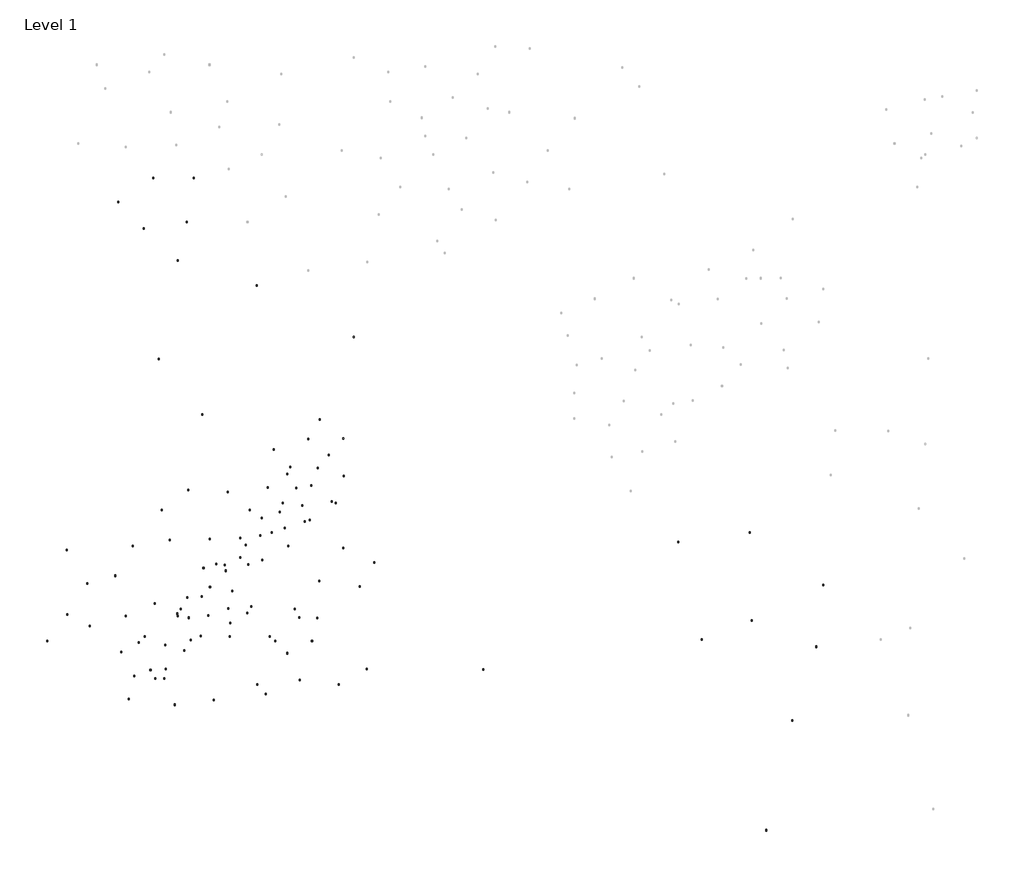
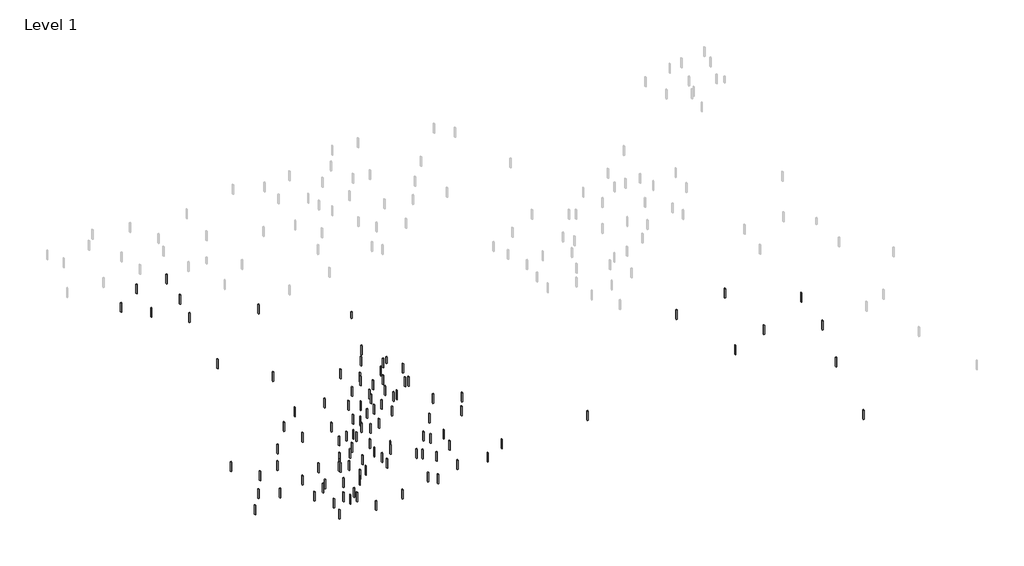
# One storey, part 1 of 3: 112 columns.
"""IFC4 building model written with IfcOpenShell, lengths in millimetres."""

from ifc_helpers import new_model, si_unit, origin, place, context, project, spatial, transform, mapped, element, save
from components import concrete_rectangular_column_12_x_18_4e544043, concrete_rectangular_column_12_x_18_d53c0298

model = new_model("IFC4")

# Units and contexts
model_context = context("Model", 3, world=origin())
ifc_project = project(units=[si_unit("LENGTHUNIT", "METRE", prefix="MILLI")], contexts=[model_context])

# Site, building, storey
site = spatial("IfcSite", under=ifc_project)
building = spatial("IfcBuilding", under=site)
storey = spatial("IfcBuildingStorey", under=building, Name="Level 1", Elevation=0.0)

# Columns
placement = place(None, origin())
concrete_rectangular_column_12_x_18_shape = concrete_rectangular_column_12_x_18_4e544043(model_context)
element("IfcColumn", 1, ObjectType="Concrete-Rectangular-Column : 12 x 18", at=placement, inside=storey, context=model_context, shape_type="MappedRepresentation", body=[
    mapped(concrete_rectangular_column_12_x_18_shape, transform((108236.3746611, 134663.9156504, 0.0), x_axis=(1.0, 0.0, 0.0), y_axis=(0.0, 1.0, 0.0), z_axis=(0.0, 0.0, 1.0))),
])
element("IfcColumn", 2, ObjectType="Concrete-Rectangular-Column : 12 x 18", at=placement, inside=storey, context=model_context, shape_type="MappedRepresentation", body=[
    mapped(concrete_rectangular_column_12_x_18_shape, transform((96676.8386469, 121200.4411543, 0.0), x_axis=(1.0, 0.0, 0.0), y_axis=(0.0, 1.0, 0.0), z_axis=(0.0, 0.0, 1.0))),
])
element("IfcColumn", 3, ObjectType="Concrete-Rectangular-Column : 12 x 18", at=placement, inside=storey, context=model_context, shape_type="MappedRepresentation", body=[
    mapped(concrete_rectangular_column_12_x_18_shape, transform((31704.274153, 102630.1315046, 0.0), x_axis=(1.0, 0.0, 0.0), y_axis=(0.0, 1.0, 0.0), z_axis=(0.0, 0.0, 1.0))),
])
element("IfcColumn", 4, ObjectType="Concrete-Rectangular-Column : 12 x 18", at=placement, inside=storey, context=model_context, shape_type="MappedRepresentation", body=[
    mapped(concrete_rectangular_column_12_x_18_shape, transform((41944.8959136, 82237.322074, 0.0), x_axis=(1.0, 0.0, 0.0), y_axis=(0.0, 1.0, 0.0), z_axis=(0.0, 0.0, 1.0))),
])
element("IfcColumn", 5, ObjectType="Concrete-Rectangular-Column : 12 x 18", at=placement, inside=storey, context=model_context, shape_type="MappedRepresentation", body=[
    mapped(concrete_rectangular_column_12_x_18_shape, transform((19746.1334487, 85452.5950785, 0.0), x_axis=(1.0, 0.0, 0.0), y_axis=(0.0, 1.0, 0.0), z_axis=(0.0, 0.0, 1.0))),
])
element("IfcColumn", 6, ObjectType="Concrete-Rectangular-Column : 12 x 18", at=placement, inside=storey, context=model_context, shape_type="MappedRepresentation", body=[
    mapped(concrete_rectangular_column_12_x_18_shape, transform((57889.0835194, 66452.5588717, 0.0), x_axis=(1.0, 0.0, 0.0), y_axis=(0.0, 1.0, 0.0), z_axis=(0.0, 0.0, 1.0))),
])
element("IfcColumn", 7, ObjectType="Concrete-Rectangular-Column : 12 x 18", at=placement, inside=storey, context=model_context, shape_type="MappedRepresentation", body=[
    mapped(concrete_rectangular_column_12_x_18_shape, transform((54700.2459982, 74344.9404728, 0.0), x_axis=(1.0, 0.0, 0.0), y_axis=(0.0, 1.0, 0.0), z_axis=(0.0, 0.0, 1.0))),
])
element("IfcColumn", 8, ObjectType="Concrete-Rectangular-Column : 12 x 18", at=placement, inside=storey, context=model_context, shape_type="MappedRepresentation", body=[
    mapped(concrete_rectangular_column_12_x_18_shape, transform((60679.3163504, 82701.5798152, 0.0), x_axis=(1.0, 0.0, 0.0), y_axis=(0.0, 1.0, 0.0), z_axis=(0.0, 0.0, 1.0))),
])
element("IfcColumn", 9, ObjectType="Concrete-Rectangular-Column : 12 x 18", at=placement, inside=storey, context=model_context, shape_type="MappedRepresentation", body=[
    mapped(concrete_rectangular_column_12_x_18_shape, transform((69448.6195336, 67845.3320954, 0.0), x_axis=(1.0, 0.0, 0.0), y_axis=(0.0, 1.0, 0.0), z_axis=(0.0, 0.0, 1.0))),
])
element("IfcColumn", 10, ObjectType="Concrete-Rectangular-Column : 12 x 18", at=placement, inside=storey, context=model_context, shape_type="MappedRepresentation", body=[
    mapped(concrete_rectangular_column_12_x_18_shape, transform((84994.2024493, 69702.3630604, 0.0), x_axis=(1.0, 0.0, 0.0), y_axis=(0.0, 1.0, 0.0), z_axis=(0.0, 0.0, 1.0))),
])
element("IfcColumn", 11, ObjectType="Concrete-Rectangular-Column : 12 x 18", at=placement, inside=storey, context=model_context, shape_type="MappedRepresentation", body=[
    mapped(concrete_rectangular_column_12_x_18_shape, transform((86190.0165198, 86879.8994864, 0.0), x_axis=(1.0, 0.0, 0.0), y_axis=(0.0, 1.0, 0.0), z_axis=(0.0, 0.0, 1.0))),
])
element("IfcColumn", 12, ObjectType="Concrete-Rectangular-Column : 12 x 18", at=placement, inside=storey, context=model_context, shape_type="MappedRepresentation", body=[
    mapped(concrete_rectangular_column_12_x_18_shape, transform((82469.1412254, 72440.8426473, 0.0), x_axis=(1.0, 0.0, 0.0), y_axis=(0.0, 1.0, 0.0), z_axis=(0.0, 0.0, 1.0))),
])
element("IfcColumn", 13, ObjectType="Concrete-Rectangular-Column : 12 x 18", at=placement, inside=storey, context=model_context, shape_type="MappedRepresentation", body=[
    mapped(concrete_rectangular_column_12_x_18_shape, transform((61599.625914, 98451.8118334, 0.0), x_axis=(1.0, 0.0, 0.0), y_axis=(0.0, 1.0, 0.0), z_axis=(0.0, 0.0, 1.0))),
])
element("IfcColumn", 14, ObjectType="Concrete-Rectangular-Column : 12 x 18", at=placement, inside=storey, context=model_context, shape_type="MappedRepresentation", body=[
    mapped(concrete_rectangular_column_12_x_18_shape, transform((61998.2306042, 92416.4611972, 0.0), x_axis=(1.0, 0.0, 0.0), y_axis=(0.0, 1.0, 0.0), z_axis=(0.0, 0.0, 1.0))),
])
element("IfcColumn", 15, ObjectType="Concrete-Rectangular-Column : 12 x 18", at=placement, inside=storey, context=model_context, shape_type="MappedRepresentation", body=[
    mapped(concrete_rectangular_column_12_x_18_shape, transform((72760.5572381, 108201.2243995, 0.0), x_axis=(1.0, 0.0, 0.0), y_axis=(0.0, 1.0, 0.0), z_axis=(0.0, 0.0, 1.0))),
])
element("IfcColumn", 16, ObjectType="Concrete-Rectangular-Column : 12 x 18", at=placement, inside=storey, context=model_context, shape_type="MappedRepresentation", body=[
    mapped(concrete_rectangular_column_12_x_18_shape, transform((63576.4818912, 223629.5995326, 0.0), x_axis=(1.0, 0.0, 0.0), y_axis=(0.0, 1.0, 0.0), z_axis=(0.0, 0.0, 1.0))),
])
element("IfcColumn", 17, ObjectType="Concrete-Rectangular-Column : 12 x 18", at=placement, inside=storey, context=model_context, shape_type="MappedRepresentation", body=[
    mapped(concrete_rectangular_column_12_x_18_shape, transform((51386.5691187, 223629.5995326, 0.0), x_axis=(1.0, 0.0, 0.0), y_axis=(0.0, 1.0, 0.0), z_axis=(0.0, 0.0, 1.0))),
])
element("IfcColumn", 18, ObjectType="Concrete-Rectangular-Column : 12 x 18", at=placement, inside=storey, context=model_context, shape_type="MappedRepresentation", body=[
    mapped(concrete_rectangular_column_12_x_18_shape, transform((40938.0724565, 216539.5428211, 0.0), x_axis=(1.0, 0.0, 0.0), y_axis=(0.0, 1.0, 0.0), z_axis=(0.0, 0.0, 1.0))),
])
element("IfcColumn", 19, ObjectType="Concrete-Rectangular-Column : 12 x 18", at=placement, inside=storey, context=model_context, shape_type="MappedRepresentation", body=[
    mapped(concrete_rectangular_column_12_x_18_shape, transform((230093.2144375, 91589.9851363, 0.0), x_axis=(1.0, 0.0, 0.0), y_axis=(0.0, 1.0, 0.0), z_axis=(0.0, 0.0, 1.0))),
])
element("IfcColumn", 20, ObjectType="Concrete-Rectangular-Column : 12 x 18", at=placement, inside=storey, context=model_context, shape_type="MappedRepresentation", body=[
    mapped(concrete_rectangular_column_12_x_18_shape, transform((251430.6150021, 102258.6854186, 0.0), x_axis=(1.0, 0.0, 0.0), y_axis=(0.0, 1.0, 0.0), z_axis=(0.0, 0.0, 1.0))),
])
element("IfcColumn", 21, ObjectType="Concrete-Rectangular-Column : 12 x 18", at=placement, inside=storey, context=model_context, shape_type="MappedRepresentation", body=[
    mapped(concrete_rectangular_column_12_x_18_shape, transform((249296.8749457, 83766.2715959, 0.0), x_axis=(1.0, 0.0, 0.0), y_axis=(0.0, 1.0, 0.0), z_axis=(0.0, 0.0, 1.0))),
])
element("IfcColumn", 22, ObjectType="Concrete-Rectangular-Column : 12 x 18", at=placement, inside=storey, context=model_context, shape_type="MappedRepresentation", body=[
    mapped(concrete_rectangular_column_12_x_18_shape, transform((149945.4490928, 76975.347726, 0.0), x_axis=(1.0, 0.0, 0.0), y_axis=(0.0, 1.0, 0.0), z_axis=(0.0, 0.0, 1.0))),
])
element("IfcColumn", 23, ObjectType="Concrete-Rectangular-Column : 12 x 18", at=placement, inside=storey, context=model_context, shape_type="MappedRepresentation", body=[
    mapped(concrete_rectangular_column_12_x_18_shape, transform((234360.6945504, 29000.2768134, 0.0), x_axis=(1.0, 0.0, 0.0), y_axis=(0.0, 1.0, 0.0), z_axis=(0.0, 0.0, 1.0))),
])
element("IfcColumn", 24, ObjectType="Concrete-Rectangular-Column : 12 x 18", at=placement, inside=storey, context=model_context, shape_type="MappedRepresentation", body=[
    mapped(concrete_rectangular_column_12_x_18_shape, transform((106784.0273243, 72440.8426473, 0.0), x_axis=(1.0, 0.0, 0.0), y_axis=(0.0, 1.0, 0.0), z_axis=(0.0, 0.0, 1.0))),
])
element("IfcColumn", 25, ObjectType="Concrete-Rectangular-Column : 12 x 18", at=placement, inside=storey, context=model_context, shape_type="MappedRepresentation", body=[
    mapped(concrete_rectangular_column_12_x_18_shape, transform((98811.9335214, 85440.0594021, 0.0), x_axis=(1.0, 0.0, 0.0), y_axis=(0.0, 1.0, 0.0), z_axis=(0.0, 0.0, 1.0))),
])
element("IfcColumn", 26, ObjectType="Concrete-Rectangular-Column : 12 x 18", at=placement, inside=storey, context=model_context, shape_type="MappedRepresentation", body=[
    mapped(concrete_rectangular_column_12_x_18_shape, transform((115154.7258174, 77083.4200597, 0.0), x_axis=(1.0, 0.0, 0.0), y_axis=(0.0, 1.0, 0.0), z_axis=(0.0, 0.0, 1.0))),
])
element("IfcColumn", 27, ObjectType="Concrete-Rectangular-Column : 12 x 18", at=placement, inside=storey, context=model_context, shape_type="MappedRepresentation", body=[
    mapped(concrete_rectangular_column_12_x_18_shape, transform((95224.4913101, 73833.615871, 0.0), x_axis=(1.0, 0.0, 0.0), y_axis=(0.0, 1.0, 0.0), z_axis=(0.0, 0.0, 1.0))),
])
element("IfcColumn", 28, ObjectType="Concrete-Rectangular-Column : 12 x 18", at=placement, inside=storey, context=model_context, shape_type="MappedRepresentation", body=[
    mapped(concrete_rectangular_column_12_x_18_shape, transform((100406.352282, 92403.9255208, 0.0), x_axis=(1.0, 0.0, 0.0), y_axis=(0.0, 1.0, 0.0), z_axis=(0.0, 0.0, 1.0))),
])
element("IfcColumn", 29, ObjectType="Concrete-Rectangular-Column : 12 x 18", at=placement, inside=storey, context=model_context, shape_type="MappedRepresentation", body=[
    mapped(concrete_rectangular_column_12_x_18_shape, transform((215157.0340423, 85900.0116524, 0.0), x_axis=(1.0, 0.0, 0.0), y_axis=(0.0, 1.0, 0.0), z_axis=(0.0, 0.0, 1.0))),
])
element("IfcColumn", 30, ObjectType="Concrete-Rectangular-Column : 12 x 18", at=placement, inside=storey, context=model_context, shape_type="MappedRepresentation", body=[
    mapped(concrete_rectangular_column_12_x_18_shape, transform((208044.5671874, 115061.1257573, 0.0), x_axis=(1.0, 0.0, 0.0), y_axis=(0.0, 1.0, 0.0), z_axis=(0.0, 0.0, 1.0))),
])
element("IfcColumn", 31, ObjectType="Concrete-Rectangular-Column : 12 x 18", at=placement, inside=storey, context=model_context, shape_type="MappedRepresentation", body=[
    mapped(concrete_rectangular_column_12_x_18_shape, transform((113019.6309429, 101701.6160221, 0.0), x_axis=(1.0, 0.0, 0.0), y_axis=(0.0, 1.0, 0.0), z_axis=(0.0, 0.0, 1.0))),
])
element("IfcColumn", 32, ObjectType="Concrete-Rectangular-Column : 12 x 18", at=placement, inside=storey, context=model_context, shape_type="MappedRepresentation", body=[
    mapped(concrete_rectangular_column_12_x_18_shape, transform((242184.4080908, 61717.6243458, 0.0), x_axis=(1.0, 0.0, 0.0), y_axis=(0.0, 1.0, 0.0), z_axis=(0.0, 0.0, 1.0))),
])
element("IfcColumn", 33, ObjectType="Concrete-Rectangular-Column : 12 x 18", at=placement, inside=storey, context=model_context, shape_type="MappedRepresentation", body=[
    mapped(concrete_rectangular_column_12_x_18_shape, transform((229381.967752, 117906.1124993, 0.0), x_axis=(1.0, 0.0, 0.0), y_axis=(0.0, 1.0, 0.0), z_axis=(0.0, 0.0, 1.0))),
])
element("IfcColumn", 34, ObjectType="Concrete-Rectangular-Column : 12 x 18", at=placement, inside=storey, context=model_context, shape_type="MappedRepresentation", body=[
    mapped(concrete_rectangular_column_12_x_18_shape, transform((66029.3219043, 153126.1161567, 0.0), x_axis=(1.0, 0.0, 0.0), y_axis=(0.0, 1.0, 0.0), z_axis=(0.0, 0.0, 1.0))),
])
element("IfcColumn", 35, ObjectType="Concrete-Rectangular-Column : 12 x 18", at=placement, inside=storey, context=model_context, shape_type="MappedRepresentation", body=[
    mapped(concrete_rectangular_column_12_x_18_shape, transform((79536.8369706, 93809.2344209, 0.0), x_axis=(1.0, 0.0, 0.0), y_axis=(0.0, 1.0, 0.0), z_axis=(0.0, 0.0, 1.0))),
])
element("IfcColumn", 36, ObjectType="Concrete-Rectangular-Column : 12 x 18", at=placement, inside=storey, context=model_context, shape_type="MappedRepresentation", body=[
    mapped(concrete_rectangular_column_12_x_18_shape, transform((74231.8758154, 86879.8994864, 0.0), x_axis=(1.0, 0.0, 0.0), y_axis=(0.0, 1.0, 0.0), z_axis=(0.0, 0.0, 1.0))),
])
element("IfcColumn", 37, ObjectType="Concrete-Rectangular-Column : 12 x 18", at=placement, inside=storey, context=model_context, shape_type="MappedRepresentation", body=[
    mapped(concrete_rectangular_column_12_x_18_shape, transform((43263.8101673, 92880.7189384, 0.0), x_axis=(1.0, 0.0, 0.0), y_axis=(0.0, 1.0, 0.0), z_axis=(0.0, 0.0, 1.0))),
])
element("IfcColumn", 38, ObjectType="Concrete-Rectangular-Column : 12 x 18", at=placement, inside=storey, context=model_context, shape_type="MappedRepresentation", body=[
    mapped(concrete_rectangular_column_12_x_18_shape, transform((58686.2928997, 92915.2501226, 0.0), x_axis=(1.0, 0.0, 0.0), y_axis=(0.0, 1.0, 0.0), z_axis=(0.0, 0.0, 1.0))),
])
element("IfcColumn", 39, ObjectType="Concrete-Rectangular-Column : 12 x 18", at=placement, inside=storey, context=model_context, shape_type="MappedRepresentation", body=[
    mapped(concrete_rectangular_column_12_x_18_shape, transform((47126.7568855, 85022.8685215, 0.0), x_axis=(1.0, 0.0, 0.0), y_axis=(0.0, 1.0, 0.0), z_axis=(0.0, 0.0, 1.0))),
])
element("IfcColumn", 40, ObjectType="Concrete-Rectangular-Column : 12 x 18", at=placement, inside=storey, context=model_context, shape_type="MappedRepresentation", body=[
    mapped(concrete_rectangular_column_12_x_18_shape, transform((25725.2038008, 93344.9766797, 0.0), x_axis=(1.0, 0.0, 0.0), y_axis=(0.0, 1.0, 0.0), z_axis=(0.0, 0.0, 1.0))),
])
element("IfcColumn", 41, ObjectType="Concrete-Rectangular-Column : 12 x 18", at=placement, inside=storey, context=model_context, shape_type="MappedRepresentation", body=[
    mapped(concrete_rectangular_column_12_x_18_shape, transform((40074.9726461, 104951.4202108, 0.0), x_axis=(1.0, 0.0, 0.0), y_axis=(0.0, 1.0, 0.0), z_axis=(0.0, 0.0, 1.0))),
])
element("IfcColumn", 42, ObjectType="Concrete-Rectangular-Column : 12 x 18", at=placement, inside=storey, context=model_context, shape_type="MappedRepresentation", body=[
    mapped(concrete_rectangular_column_12_x_18_shape, transform((45256.833618, 113772.3172944, 0.0), x_axis=(1.0, 0.0, 0.0), y_axis=(0.0, 1.0, 0.0), z_axis=(0.0, 0.0, 1.0))),
])
element("IfcColumn", 43, ObjectType="Concrete-Rectangular-Column : 12 x 18", at=placement, inside=storey, context=model_context, shape_type="MappedRepresentation", body=[
    mapped(concrete_rectangular_column_12_x_18_shape, transform((56417.7649421, 115629.3482594, 0.0), x_axis=(1.0, 0.0, 0.0), y_axis=(0.0, 1.0, 0.0), z_axis=(0.0, 0.0, 1.0))),
])
element("IfcColumn", 44, ObjectType="Concrete-Rectangular-Column : 12 x 18", at=placement, inside=storey, context=model_context, shape_type="MappedRepresentation", body=[
    mapped(concrete_rectangular_column_12_x_18_shape, transform((53127.9852291, 169636.0907297, 0.0), x_axis=(1.0, 0.0, 0.0), y_axis=(0.0, 1.0, 0.0), z_axis=(0.0, 0.0, 1.0))),
])
element("IfcColumn", 45, ObjectType="Concrete-Rectangular-Column : 12 x 18", at=placement, inside=storey, context=model_context, shape_type="MappedRepresentation", body=[
    mapped(concrete_rectangular_column_12_x_18_shape, transform((51941.6023645, 96601.7901574, 0.0), x_axis=(1.0, 0.0, 0.0), y_axis=(0.0, 1.0, 0.0), z_axis=(0.0, 0.0, 1.0))),
])
element("IfcColumn", 46, ObjectType="Concrete-Rectangular-Column : 12 x 18", at=placement, inside=storey, context=model_context, shape_type="MappedRepresentation", body=[
    mapped(concrete_rectangular_column_12_x_18_shape, transform((32507.42189, 89944.3991654, 0.0), x_axis=(1.0, 0.0, 0.0), y_axis=(0.0, 1.0, 0.0), z_axis=(0.0, 0.0, 1.0))),
])
element("IfcColumn", 47, ObjectType="Concrete-Rectangular-Column : 12 x 18", at=placement, inside=storey, context=model_context, shape_type="MappedRepresentation", body=[
    mapped(concrete_rectangular_column_12_x_18_shape, transform((73662.1570126, 129888.7451172, 0.0), x_axis=(1.0, 0.0, 0.0), y_axis=(0.0, 1.0, 0.0), z_axis=(0.0, 0.0, 1.0))),
])
element("IfcColumn", 48, ObjectType="Concrete-Rectangular-Column : 12 x 18", at=placement, inside=storey, context=model_context, shape_type="MappedRepresentation", body=[
    mapped(concrete_rectangular_column_12_x_18_shape, transform((25648.2993696, 112579.5285381, 0.0), x_axis=(1.0, 0.0, 0.0), y_axis=(0.0, 1.0, 0.0), z_axis=(0.0, 0.0, 1.0))),
])
element("IfcColumn", 49, ObjectType="Concrete-Rectangular-Column : 12 x 18", at=placement, inside=storey, context=model_context, shape_type="MappedRepresentation", body=[
    mapped(concrete_rectangular_column_12_x_18_shape, transform((44071.5228678, 68237.1238954, 0.0), x_axis=(1.0, 0.0, 0.0), y_axis=(0.0, 1.0, 0.0), z_axis=(0.0, 0.0, 1.0))),
])
element("IfcColumn", 50, ObjectType="Concrete-Rectangular-Column : 12 x 18", at=placement, inside=storey, context=model_context, shape_type="MappedRepresentation", body=[
    mapped(concrete_rectangular_column_12_x_18_shape, transform((61386.9398689, 210478.9144885, 0.0), x_axis=(1.0, 0.0, 0.0), y_axis=(0.0, 1.0, 0.0), z_axis=(0.0, 0.0, 1.0))),
])
element("IfcColumn", 51, ObjectType="Concrete-Rectangular-Column : 12 x 18", at=placement, inside=storey, context=model_context, shape_type="MappedRepresentation", body=[
    mapped(concrete_rectangular_column_12_x_18_shape, transform((58693.8048854, 199092.2719081, 0.0), x_axis=(1.0, 0.0, 0.0), y_axis=(0.0, 1.0, 0.0), z_axis=(0.0, 0.0, 1.0))),
])
element("IfcColumn", 52, ObjectType="Concrete-Rectangular-Column : 12 x 18", at=placement, inside=storey, context=model_context, shape_type="MappedRepresentation", body=[
    mapped(concrete_rectangular_column_12_x_18_shape, transform((48594.5486974, 208581.1407251, 0.0), x_axis=(1.0, 0.0, 0.0), y_axis=(0.0, 1.0, 0.0), z_axis=(0.0, 0.0, 1.0))),
])
element("IfcColumn", 53, ObjectType="Concrete-Rectangular-Column : 12 x 18", at=placement, inside=storey, context=model_context, shape_type="MappedRepresentation", body=[
    mapped(concrete_rectangular_column_12_x_18_shape, transform((117344.9170358, 108953.0367563, 0.0), x_axis=(1.0, 0.0, 0.0), y_axis=(0.0, 1.0, 0.0), z_axis=(0.0, 0.0, 1.0))),
])
element("IfcColumn", 54, ObjectType="Concrete-Rectangular-Column : 12 x 18", at=placement, inside=storey, context=model_context, shape_type="MappedRepresentation", body=[
    mapped(concrete_rectangular_column_12_x_18_shape, transform((108098.1646724, 113260.9402729, 0.0), x_axis=(1.0, 0.0, 0.0), y_axis=(0.0, 1.0, 0.0), z_axis=(0.0, 0.0, 1.0))),
])
element("IfcColumn", 55, ObjectType="Concrete-Rectangular-Column : 12 x 18", at=placement, inside=storey, context=model_context, shape_type="MappedRepresentation", body=[
    mapped(concrete_rectangular_column_12_x_18_shape, transform((93644.789446, 94969.2809668, 0.0), x_axis=(1.0, 0.0, 0.0), y_axis=(0.0, 1.0, 0.0), z_axis=(0.0, 0.0, 1.0))),
])
element("IfcColumn", 56, ObjectType="Concrete-Rectangular-Column : 12 x 18", at=placement, inside=storey, context=model_context, shape_type="MappedRepresentation", body=[
    mapped(concrete_rectangular_column_12_x_18_shape, transform((48918.9495469, 86875.0312336, 0.0), x_axis=(1.0, 0.0, 0.0), y_axis=(0.0, 1.0, 0.0), z_axis=(0.0, 0.0, 1.0))),
])
element("IfcColumn", 57, ObjectType="Concrete-Rectangular-Column : 12 x 18", at=placement, inside=storey, context=model_context, shape_type="MappedRepresentation", body=[
    mapped(concrete_rectangular_column_12_x_18_shape, transform((54004.6633467, 124569.187004, 0.0), x_axis=(1.0, 0.0, 0.0), y_axis=(0.0, 1.0, 0.0), z_axis=(0.0, 0.0, 1.0))),
])
element("IfcColumn", 58, ObjectType="Concrete-Rectangular-Column : 12 x 18", at=placement, inside=storey, context=model_context, shape_type="MappedRepresentation", body=[
    mapped(concrete_rectangular_column_12_x_18_shape, transform((61864.4028556, 130492.5543394, 0.0), x_axis=(1.0, 0.0, 0.0), y_axis=(0.0, 1.0, 0.0), z_axis=(0.0, 0.0, 1.0))),
])
element("IfcColumn", 59, ObjectType="Concrete-Rectangular-Column : 12 x 18", at=placement, inside=storey, context=model_context, shape_type="MappedRepresentation", body=[
    mapped(concrete_rectangular_column_12_x_18_shape, transform((68337.12951, 115953.3799708, 0.0), x_axis=(1.0, 0.0, 0.0), y_axis=(0.0, 1.0, 0.0), z_axis=(0.0, 0.0, 1.0))),
])
element("IfcColumn", 60, ObjectType="Concrete-Rectangular-Column : 12 x 18", at=placement, inside=storey, context=model_context, shape_type="MappedRepresentation", body=[
    mapped(concrete_rectangular_column_12_x_18_shape, transform((82373.7402735, 191499.6992398, 0.0), x_axis=(1.0, 0.0, 0.0), y_axis=(0.0, 1.0, 0.0), z_axis=(0.0, 0.0, 1.0))),
])
element("IfcColumn", 61, ObjectType="Concrete-Rectangular-Column : 12 x 18", at=placement, inside=storey, context=model_context, shape_type="MappedRepresentation", body=[
    mapped(concrete_rectangular_column_12_x_18_shape, transform((92388.3073717, 137432.4060734, 0.0), x_axis=(1.0, 0.0, 0.0), y_axis=(0.0, 1.0, 0.0), z_axis=(0.0, 0.0, 1.0))),
])
element("IfcColumn", 62, ObjectType="Concrete-Rectangular-Column : 12 x 18", at=placement, inside=storey, context=model_context, shape_type="MappedRepresentation", body=[
    mapped(concrete_rectangular_column_12_x_18_shape, transform((83400.4640745, 116932.1702137, 0.0), x_axis=(1.0, 0.0, 0.0), y_axis=(0.0, 1.0, 0.0), z_axis=(0.0, 0.0, 1.0))),
])
element("IfcColumn", 63, ObjectType="Concrete-Rectangular-Column : 12 x 18", at=placement, inside=storey, context=model_context, shape_type="MappedRepresentation", body=[
    mapped(concrete_rectangular_column_12_x_18_shape, transform((101001.6571982, 103410.7380509, 0.0), x_axis=(1.0, 0.0, 0.0), y_axis=(0.0, 1.0, 0.0), z_axis=(0.0, 0.0, 1.0))),
])
element("IfcColumn", 64, ObjectType="Concrete-Rectangular-Column : 12 x 18", at=placement, inside=storey, context=model_context, shape_type="MappedRepresentation", body=[
    mapped(concrete_rectangular_column_12_x_18_shape, transform((95040.0189474, 92483.5400474, 0.0), x_axis=(1.0, 0.0, 0.0), y_axis=(0.0, 1.0, 0.0), z_axis=(0.0, 0.0, 1.0))),
])
element("IfcColumn", 65, ObjectType="Concrete-Rectangular-Column : 12 x 18", at=placement, inside=storey, context=model_context, shape_type="MappedRepresentation", body=[
    mapped(concrete_rectangular_column_12_x_18_shape, transform((91416.697091, 81818.1476752, 0.0), x_axis=(1.0, 0.0, 0.0), y_axis=(0.0, 1.0, 0.0), z_axis=(0.0, 0.0, 1.0))),
])
element("IfcColumn", 66, ObjectType="Concrete-Rectangular-Column : 12 x 18", at=placement, inside=storey, context=model_context, shape_type="MappedRepresentation", body=[
    mapped(concrete_rectangular_column_12_x_18_shape, transform((87894.3857231, 85527.5535775, 0.0), x_axis=(1.0, 0.0, 0.0), y_axis=(0.0, 1.0, 0.0), z_axis=(0.0, 0.0, 1.0))),
])
element("IfcColumn", 67, ObjectType="Concrete-Rectangular-Column : 12 x 18", at=placement, inside=storey, context=model_context, shape_type="MappedRepresentation", body=[
    mapped(concrete_rectangular_column_12_x_18_shape, transform((67833.8193272, 93069.0402379, 0.0), x_axis=(1.0, 0.0, 0.0), y_axis=(0.0, 1.0, 0.0), z_axis=(0.0, 0.0, 1.0))),
])
element("IfcColumn", 68, ObjectType="Concrete-Rectangular-Column : 12 x 18", at=placement, inside=storey, context=model_context, shape_type="MappedRepresentation", body=[
    mapped(concrete_rectangular_column_12_x_18_shape, transform((68375.1007284, 101583.2829962, 0.0), x_axis=(1.0, 0.0, 0.0), y_axis=(0.0, 1.0, 0.0), z_axis=(0.0, 0.0, 1.0))),
])
element("IfcColumn", 69, ObjectType="Concrete-Rectangular-Column : 12 x 18", at=placement, inside=storey, context=model_context, shape_type="MappedRepresentation", body=[
    mapped(concrete_rectangular_column_12_x_18_shape, transform((77365.8001909, 110391.8827056, 0.0), x_axis=(1.0, 0.0, 0.0), y_axis=(0.0, 1.0, 0.0), z_axis=(0.0, 0.0, 1.0))),
])
element("IfcColumn", 70, ObjectType="Concrete-Rectangular-Column : 12 x 18", at=placement, inside=storey, context=model_context, shape_type="MappedRepresentation", body=[
    mapped(concrete_rectangular_column_12_x_18_shape, transform((79028.8010206, 114112.792373, 0.0), x_axis=(1.0, 0.0, 0.0), y_axis=(0.0, 1.0, 0.0), z_axis=(0.0, 0.0, 1.0))),
])
element("IfcColumn", 71, ObjectType="Concrete-Rectangular-Column : 12 x 18", at=placement, inside=storey, context=model_context, shape_type="MappedRepresentation", body=[
    mapped(concrete_rectangular_column_12_x_18_shape, transform((86850.9450125, 117915.8379075, 0.0), x_axis=(1.0, 0.0, 0.0), y_axis=(0.0, 1.0, 0.0), z_axis=(0.0, 0.0, 1.0))),
])
element("IfcColumn", 72, ObjectType="Concrete-Rectangular-Column : 12 x 18", at=placement, inside=storey, context=model_context, shape_type="MappedRepresentation", body=[
    mapped(concrete_rectangular_column_12_x_18_shape, transform((90098.5207464, 126713.5271722, 0.0), x_axis=(1.0, 0.0, 0.0), y_axis=(0.0, 1.0, 0.0), z_axis=(0.0, 0.0, 1.0))),
])
element("IfcColumn", 73, ObjectType="Concrete-Rectangular-Column : 12 x 18", at=placement, inside=storey, context=model_context, shape_type="MappedRepresentation", body=[
    mapped(concrete_rectangular_column_12_x_18_shape, transform((95939.3519611, 125866.4827085, 0.0), x_axis=(1.0, 0.0, 0.0), y_axis=(0.0, 1.0, 0.0), z_axis=(0.0, 0.0, 1.0))),
])
element("IfcColumn", 74, ObjectType="Concrete-Rectangular-Column : 12 x 18", at=placement, inside=storey, context=model_context, shape_type="MappedRepresentation", body=[
    mapped(concrete_rectangular_column_12_x_18_shape, transform((105904.1793758, 126718.6336375, 0.0), x_axis=(1.0, 0.0, 0.0), y_axis=(0.0, 1.0, 0.0), z_axis=(0.0, 0.0, 1.0))),
])
element("IfcColumn", 75, ObjectType="Concrete-Rectangular-Column : 12 x 18", at=placement, inside=storey, context=model_context, shape_type="MappedRepresentation", body=[
    mapped(concrete_rectangular_column_12_x_18_shape, transform((45772.386746, 75057.8611768, 0.0), x_axis=(1.0, 0.0, 0.0), y_axis=(0.0, 1.0, 0.0), z_axis=(0.0, 0.0, 1.0))),
])
element("IfcColumn", 76, ObjectType="Concrete-Rectangular-Column : 12 x 18", at=placement, inside=storey, context=model_context, shape_type="MappedRepresentation", body=[
    mapped(concrete_rectangular_column_12_x_18_shape, transform((50616.6977086, 76799.3217837, 0.0), x_axis=(1.0, 0.0, 0.0), y_axis=(0.0, 1.0, 0.0), z_axis=(0.0, 0.0, 1.0))),
])
element("IfcColumn", 77, ObjectType="Concrete-Rectangular-Column : 12 x 18", at=placement, inside=storey, context=model_context, shape_type="MappedRepresentation", body=[
    mapped(concrete_rectangular_column_12_x_18_shape, transform((55023.0090328, 84262.3912236, 0.0), x_axis=(1.0, 0.0, 0.0), y_axis=(0.0, 1.0, 0.0), z_axis=(0.0, 0.0, 1.0))),
])
element("IfcColumn", 78, ObjectType="Concrete-Rectangular-Column : 12 x 18", at=placement, inside=storey, context=model_context, shape_type="MappedRepresentation", body=[
    mapped(concrete_rectangular_column_12_x_18_shape, transform((51962.3825804, 74260.4752903, 0.0), x_axis=(1.0, 0.0, 0.0), y_axis=(0.0, 1.0, 0.0), z_axis=(0.0, 0.0, 1.0))),
])
element("IfcColumn", 79, ObjectType="Concrete-Rectangular-Column : 12 x 18", at=placement, inside=storey, context=model_context, shape_type="MappedRepresentation", body=[
    mapped(concrete_rectangular_column_12_x_18_shape, transform((55183.5180517, 77189.8574183, 0.0), x_axis=(1.0, 0.0, 0.0), y_axis=(0.0, 1.0, 0.0), z_axis=(0.0, 0.0, 1.0))),
])
element("IfcColumn", 80, ObjectType="Concrete-Rectangular-Column : 12 x 18", at=placement, inside=storey, context=model_context, shape_type="MappedRepresentation", body=[
    mapped(concrete_rectangular_column_12_x_18_shape, transform((62574.704551, 85794.89856, 0.0), x_axis=(1.0, 0.0, 0.0), y_axis=(0.0, 1.0, 0.0), z_axis=(0.0, 0.0, 1.0))),
])
element("IfcColumn", 81, ObjectType="Concrete-Rectangular-Column : 12 x 18", at=placement, inside=storey, context=model_context, shape_type="MappedRepresentation", body=[
    mapped(concrete_rectangular_column_12_x_18_shape, transform((73762.4491424, 95185.8299954, 0.0), x_axis=(1.0, 0.0, 0.0), y_axis=(0.0, 1.0, 0.0), z_axis=(0.0, 0.0, 1.0))),
])
element("IfcColumn", 82, ObjectType="Concrete-Rectangular-Column : 12 x 18", at=placement, inside=storey, context=model_context, shape_type="MappedRepresentation", body=[
    mapped(concrete_rectangular_column_12_x_18_shape, transform((65555.9944881, 86936.7716902, 0.0), x_axis=(1.0, 0.0, 0.0), y_axis=(0.0, 1.0, 0.0), z_axis=(0.0, 0.0, 1.0))),
])
element("IfcColumn", 83, ObjectType="Concrete-Rectangular-Column : 12 x 18", at=placement, inside=storey, context=model_context, shape_type="MappedRepresentation", body=[
    mapped(concrete_rectangular_column_12_x_18_shape, transform((74471.3343423, 90805.0533127, 0.0), x_axis=(1.0, 0.0, 0.0), y_axis=(0.0, 1.0, 0.0), z_axis=(0.0, 0.0, 1.0))),
])
element("IfcColumn", 84, ObjectType="Concrete-Rectangular-Column : 12 x 18", at=placement, inside=storey, context=model_context, shape_type="MappedRepresentation", body=[
    mapped(concrete_rectangular_column_12_x_18_shape, transform((80627.5597761, 95772.9059337, 0.0), x_axis=(1.0, 0.0, 0.0), y_axis=(0.0, 1.0, 0.0), z_axis=(0.0, 0.0, 1.0))),
])
element("IfcColumn", 85, ObjectType="Concrete-Rectangular-Column : 12 x 18", at=placement, inside=storey, context=model_context, shape_type="MappedRepresentation", body=[
    mapped(concrete_rectangular_column_12_x_18_shape, transform((79817.0793569, 108366.53233, 0.0), x_axis=(1.0, 0.0, 0.0), y_axis=(0.0, 1.0, 0.0), z_axis=(0.0, 0.0, 1.0))),
])
element("IfcColumn", 86, ObjectType="Concrete-Rectangular-Column : 12 x 18", at=placement, inside=storey, context=model_context, shape_type="MappedRepresentation", body=[
    mapped(concrete_rectangular_column_12_x_18_shape, transform((74997.5074802, 100365.3039312, 0.0), x_axis=(1.0, 0.0, 0.0), y_axis=(0.0, 1.0, 0.0), z_axis=(0.0, 0.0, 1.0))),
])
element("IfcColumn", 87, ObjectType="Concrete-Rectangular-Column : 12 x 18", at=placement, inside=storey, context=model_context, shape_type="MappedRepresentation", body=[
    mapped(concrete_rectangular_column_12_x_18_shape, transform((66431.3179265, 107221.8372376, 0.0), x_axis=(1.0, 0.0, 0.0), y_axis=(0.0, 1.0, 0.0), z_axis=(0.0, 0.0, 1.0))),
])
element("IfcColumn", 88, ObjectType="Concrete-Rectangular-Column : 12 x 18", at=placement, inside=storey, context=model_context, shape_type="MappedRepresentation", body=[
    mapped(concrete_rectangular_column_12_x_18_shape, transform((58575.1885121, 93613.0685334, 0.0), x_axis=(1.0, 0.0, 0.0), y_axis=(0.0, 1.0, 0.0), z_axis=(0.0, 0.0, 1.0))),
])
element("IfcColumn", 89, ObjectType="Concrete-Rectangular-Column : 12 x 18", at=placement, inside=storey, context=model_context, shape_type="MappedRepresentation", body=[
    mapped(concrete_rectangular_column_12_x_18_shape, transform((59623.6696699, 95038.9896331, 0.0), x_axis=(1.0, 0.0, 0.0), y_axis=(0.0, 1.0, 0.0), z_axis=(0.0, 0.0, 1.0))),
])
element("IfcColumn", 90, ObjectType="Concrete-Rectangular-Column : 12 x 18", at=placement, inside=storey, context=model_context, shape_type="MappedRepresentation", body=[
    mapped(concrete_rectangular_column_12_x_18_shape, transform((65891.7945124, 98694.785718, 0.0), x_axis=(1.0, 0.0, 0.0), y_axis=(0.0, 1.0, 0.0), z_axis=(0.0, 0.0, 1.0))),
])
element("IfcColumn", 91, ObjectType="Concrete-Rectangular-Column : 12 x 18", at=placement, inside=storey, context=model_context, shape_type="MappedRepresentation", body=[
    mapped(concrete_rectangular_column_12_x_18_shape, transform((70192.3456966, 108437.2963704, 0.0), x_axis=(1.0, 0.0, 0.0), y_axis=(0.0, 1.0, 0.0), z_axis=(0.0, 0.0, 1.0))),
])
element("IfcColumn", 92, ObjectType="Concrete-Rectangular-Column : 12 x 18", at=placement, inside=storey, context=model_context, shape_type="MappedRepresentation", body=[
    mapped(concrete_rectangular_column_12_x_18_shape, transform((80225.5856532, 124522.7062435, 0.0), x_axis=(1.0, 0.0, 0.0), y_axis=(0.0, 1.0, 0.0), z_axis=(0.0, 0.0, 1.0))),
])
element("IfcColumn", 93, ObjectType="Concrete-Rectangular-Column : 12 x 18", at=placement, inside=storey, context=model_context, shape_type="MappedRepresentation", body=[
    mapped(concrete_rectangular_column_12_x_18_shape, transform((85541.9302385, 131265.2178715, 0.0), x_axis=(1.0, 0.0, 0.0), y_axis=(0.0, 1.0, 0.0), z_axis=(0.0, 0.0, 1.0))),
])
element("IfcColumn", 94, ObjectType="Concrete-Rectangular-Column : 12 x 18", at=placement, inside=storey, context=model_context, shape_type="MappedRepresentation", body=[
    mapped(concrete_rectangular_column_12_x_18_shape, transform((101159.2974857, 151526.9175793, 0.0), x_axis=(1.0, 0.0, 0.0), y_axis=(0.0, 1.0, 0.0), z_axis=(0.0, 0.0, 1.0))),
])
element("IfcColumn", 95, ObjectType="Concrete-Rectangular-Column : 12 x 18", at=placement, inside=storey, context=model_context, shape_type="MappedRepresentation", body=[
    mapped(concrete_rectangular_column_12_x_18_shape, transform((100584.7371076, 137049.3276506, 0.0), x_axis=(1.0, 0.0, 0.0), y_axis=(0.0, 1.0, 0.0), z_axis=(0.0, 0.0, 1.0))),
])
element("IfcColumn", 96, ObjectType="Concrete-Rectangular-Column : 12 x 18", at=placement, inside=storey, context=model_context, shape_type="MappedRepresentation", body=[
    mapped(concrete_rectangular_column_12_x_18_shape, transform((97677.3719431, 145812.0859618, 0.0), x_axis=(1.0, 0.0, 0.0), y_axis=(0.0, 1.0, 0.0), z_axis=(0.0, 0.0, 1.0))),
])
element("IfcColumn", 97, ObjectType="Concrete-Rectangular-Column : 12 x 18", at=placement, inside=storey, context=model_context, shape_type="MappedRepresentation", body=[
    mapped(concrete_rectangular_column_12_x_18_shape, transform((94041.5237496, 131093.1631242, 0.0), x_axis=(1.0, 0.0, 0.0), y_axis=(0.0, 1.0, 0.0), z_axis=(0.0, 0.0, 1.0))),
])
element("IfcColumn", 98, ObjectType="Concrete-Rectangular-Column : 12 x 18", at=placement, inside=storey, context=model_context, shape_type="MappedRepresentation", body=[
    mapped(concrete_rectangular_column_12_x_18_shape, transform((91434.5830925, 135366.876925, 0.0), x_axis=(1.0, 0.0, 0.0), y_axis=(0.0, 1.0, 0.0), z_axis=(0.0, 0.0, 1.0))),
])
element("IfcColumn", 99, ObjectType="Concrete-Rectangular-Column : 12 x 18", at=placement, inside=storey, context=model_context, shape_type="MappedRepresentation", body=[
    mapped(concrete_rectangular_column_12_x_18_shape, transform((87456.684086, 142683.2106336, 0.0), x_axis=(1.0, 0.0, 0.0), y_axis=(0.0, 1.0, 0.0), z_axis=(0.0, 0.0, 1.0))),
])
element("IfcColumn", 100, ObjectType="Concrete-Rectangular-Column : 12 x 18", at=placement, inside=storey, context=model_context, shape_type="MappedRepresentation", body=[
    mapped(concrete_rectangular_column_12_x_18_shape, transform((83860.941577, 122141.9597847, 0.0), x_axis=(1.0, 0.0, 0.0), y_axis=(0.0, 1.0, 0.0), z_axis=(0.0, 0.0, 1.0))),
])
element("IfcColumn", 101, ObjectType="Concrete-Rectangular-Column : 12 x 18", at=placement, inside=storey, context=model_context, shape_type="MappedRepresentation", body=[
    mapped(concrete_rectangular_column_12_x_18_shape, transform((77341.1236315, 116206.8681965, 0.0), x_axis=(1.0, 0.0, 0.0), y_axis=(0.0, 1.0, 0.0), z_axis=(0.0, 0.0, 1.0))),
])
element("IfcColumn", 102, ObjectType="Concrete-Rectangular-Column : 12 x 18", at=placement, inside=storey, context=model_context, shape_type="MappedRepresentation", body=[
    mapped(concrete_rectangular_column_12_x_18_shape, transform((73027.6859663, 106445.5786703, 0.0), x_axis=(1.0, 0.0, 0.0), y_axis=(0.0, 1.0, 0.0), z_axis=(0.0, 0.0, 1.0))),
])
element("IfcColumn", 103, ObjectType="Concrete-Rectangular-Column : 12 x 18", at=placement, inside=storey, context=model_context, shape_type="MappedRepresentation", body=[
    mapped(concrete_rectangular_column_12_x_18_shape, transform((83962.1787341, 109614.8356821, 0.0), x_axis=(1.0, 0.0, 0.0), y_axis=(0.0, 1.0, 0.0), z_axis=(0.0, 0.0, 1.0))),
])
element("IfcColumn", 104, ObjectType="Concrete-Rectangular-Column : 12 x 18", at=placement, inside=storey, context=model_context, shape_type="MappedRepresentation", body=[
    mapped(concrete_rectangular_column_12_x_18_shape, transform((91750.8039527, 113858.3190569, 0.0), x_axis=(1.0, 0.0, 0.0), y_axis=(0.0, 1.0, 0.0), z_axis=(0.0, 0.0, 1.0))),
])
element("IfcColumn", 105, ObjectType="Concrete-Rectangular-Column : 12 x 18", at=placement, inside=storey, context=model_context, shape_type="MappedRepresentation", body=[
    mapped(concrete_rectangular_column_12_x_18_shape, transform((90618.8141701, 119133.9907561, 0.0), x_axis=(1.0, 0.0, 0.0), y_axis=(0.0, 1.0, 0.0), z_axis=(0.0, 0.0, 1.0))),
])
element("IfcColumn", 106, ObjectType="Concrete-Rectangular-Column : 12 x 18", at=placement, inside=storey, context=model_context, shape_type="MappedRepresentation", body=[
    mapped(concrete_rectangular_column_12_x_18_shape, transform((104724.6237016, 127066.5526906, 0.0), x_axis=(1.0, 0.0, 0.0), y_axis=(0.0, 1.0, 0.0), z_axis=(0.0, 0.0, 1.0))),
])
element("IfcColumn", 107, ObjectType="Concrete-Rectangular-Column : 12 x 18", at=placement, inside=storey, context=model_context, shape_type="MappedRepresentation", body=[
    mapped(concrete_rectangular_column_12_x_18_shape, transform((98157.2183729, 121571.1583353, 0.0), x_axis=(1.0, 0.0, 0.0), y_axis=(0.0, 1.0, 0.0), z_axis=(0.0, 0.0, 1.0))),
])
element("IfcColumn", 108, ObjectType="Concrete-Rectangular-Column : 12 x 18", at=placement, inside=storey, context=model_context, shape_type="MappedRepresentation", body=[
    mapped(concrete_rectangular_column_12_x_18_shape, transform((103800.0735124, 140926.2869609, 0.0), x_axis=(1.0, 0.0, 0.0), y_axis=(0.0, 1.0, 0.0), z_axis=(0.0, 0.0, 1.0))),
])
element("IfcColumn", 109, ObjectType="Concrete-Rectangular-Column : 12 x 18", at=placement, inside=storey, context=model_context, shape_type="MappedRepresentation", body=[
    mapped(concrete_rectangular_column_12_x_18_shape, transform((98613.7833826, 131933.5898273, 0.0), x_axis=(1.0, 0.0, 0.0), y_axis=(0.0, 1.0, 0.0), z_axis=(0.0, 0.0, 1.0))),
])
element("IfcColumn", 110, ObjectType="Concrete-Rectangular-Column : 12 x 18", at=placement, inside=storey, context=model_context, shape_type="MappedRepresentation", body=[
    mapped(concrete_rectangular_column_12_x_18_shape, transform((89132.6885509, 123938.3532363, 0.0), x_axis=(1.0, 0.0, 0.0), y_axis=(0.0, 1.0, 0.0), z_axis=(0.0, 0.0, 1.0))),
])
concrete_rectangular_column_12_x_18_2_shape = concrete_rectangular_column_12_x_18_d53c0298(model_context)
element("IfcColumn", 111, ObjectType="Concrete-Rectangular-Column : 12 x 18", at=placement, inside=storey, context=model_context, shape_type="MappedRepresentation", body=[
    mapped(concrete_rectangular_column_12_x_18_2_shape, transform((108098.1646724, 145978.1877074, 0.0), x_axis=(1.0, 0.0, 0.0), y_axis=(0.0, 1.0, 0.0), z_axis=(0.0, 0.0, 1.0))),
])
element("IfcColumn", 112, ObjectType="Concrete-Rectangular-Column : 12 x 18", at=placement, inside=storey, context=model_context, shape_type="MappedRepresentation", body=[
    mapped(concrete_rectangular_column_12_x_18_2_shape, transform((111277.8114835, 176173.7744624, 0.0), x_axis=(1.0, 0.0, 0.0), y_axis=(0.0, 1.0, 0.0), z_axis=(0.0, 0.0, 1.0))),
])

save(model, "model.ifc")
